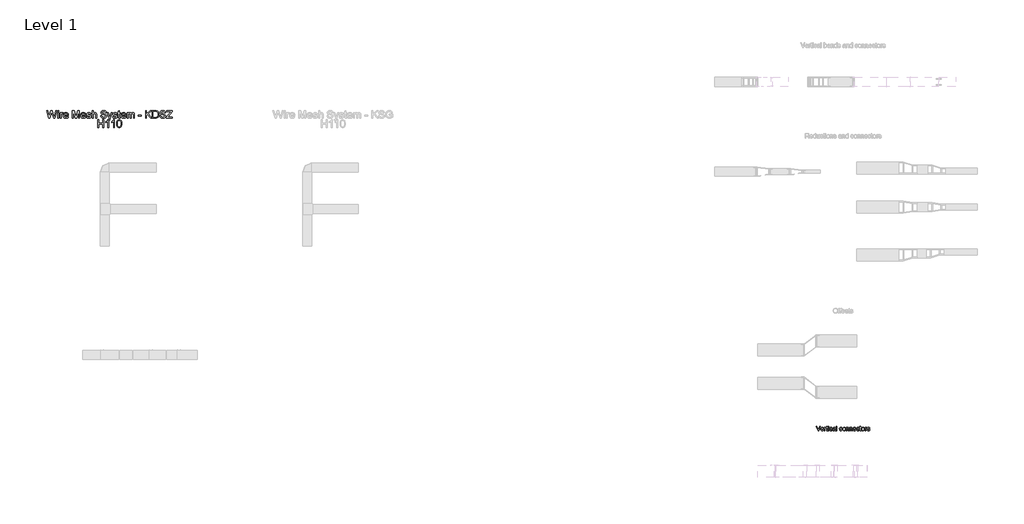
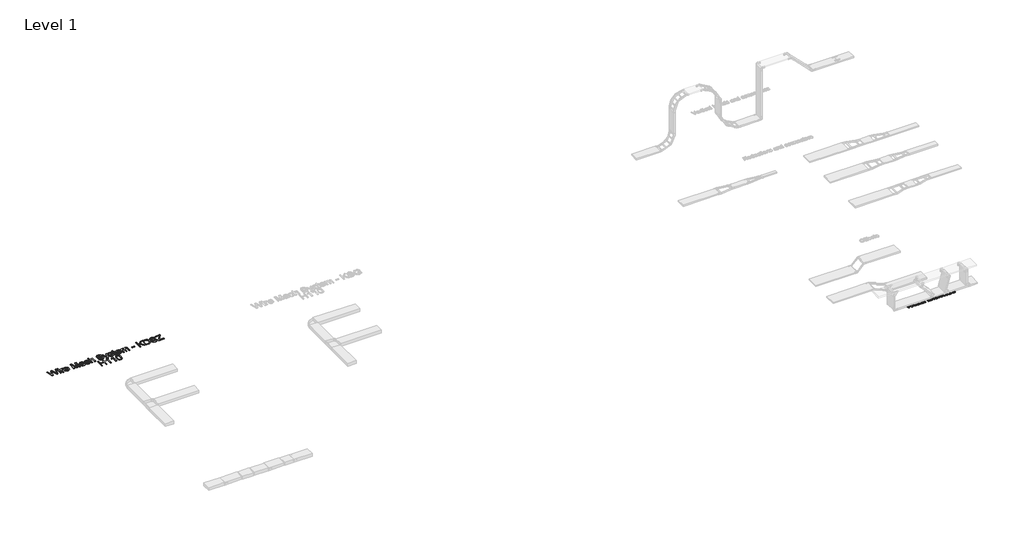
# One storey, part 34 of 106: 2 proxies.
"""IFC4 building model written with IfcOpenShell, lengths in millimetres."""

from ifc_helpers import new_model, si_unit, origin, origin_with_axes, place, context, project, spatial, polyline, outline, extrude, element, save

model = new_model("IFC4")

# Units and contexts
model_context = context("Model", 3, world=origin())
ifc_project = project(units=[si_unit("LENGTHUNIT", "METRE", prefix="MILLI")], contexts=[model_context])

# Site, building, storey
site = spatial("IfcSite", under=ifc_project)
building = spatial("IfcBuilding", under=site)
storey = spatial("IfcBuildingStorey", under=building, Name="Level 1", Elevation=0.0)

# Proxies
placement = place(None, origin())
element("IfcBuildingElementProxy", 1, Name="150mm Arial 2", ObjectType="150mm Arial 2", at=placement, inside=storey, context=model_context, shape_type="SweptSolid", body=[
    extrude(outline(polyline([(29188.5897513, 13047.8476348), (29128.624986, 13198.5321), (29148.7849194, 13198.5321), (29188.920845, 13089.9701232), (29197.0510371, 13065.5059705), (29205.0708646, 13089.9701232), (29245.3171549, 13198.5321), (29265.4770882, 13198.5321), (29208.0507088, 13047.8476348), (29188.5897513, 13047.8476348)])), origin_with_axes(), (0.0, 0.0, 1.0), 15.0),
    extrude(outline(polyline([(29358.1097746, 13080.8098615), (29376.5774508, 13078.4554168), (29369.9233852, 13064.5402803), (29359.3053911, 13054.1384169), (29344.9625918, 13047.6544967), (29327.1341106, 13045.49319), (29305.0335998, 13049.2225937), (29288.0282546, 13060.4108049), (29277.1849327, 13078.3312566), (29273.5704921, 13102.2573819), (29277.2217209, 13126.988249), (29288.1754073, 13145.4835163), (29304.9508263, 13157.0166168), (29326.0672529, 13160.8609837), (29346.5260903, 13157.0258139), (29362.8738465, 13145.5203045), (29373.5930081, 13127.0618254), (29377.166062, 13102.3677465), (29377.0556974, 13097.2909749), (29292.4060503, 13097.2909749), (29295.6664045, 13083.1918975), (29303.2401751, 13072.8268223), (29314.1708688, 13066.4532667), (29327.5019926, 13064.3287482), (29345.9696688, 13068.2650855), (29358.1097746, 13080.8098615)]), holes=[polyline([(29292.4060503, 13116.1265331), (29358.3305038, 13116.1265331), (29355.782921, 13126.0777411), (29350.7889229, 13133.1962577), (29339.8076454, 13139.8181336), (29325.9936765, 13142.0254255), (29313.2971491, 13140.2641905), (29302.7987167, 13134.9804853), (29295.5008576, 13126.7445272), (29292.4060503, 13116.1265331)])]), origin_with_axes(), (0.0, 0.0, 1.0), 15.0),
    extrude(outline(polyline([(29506.6605243, 13063.556196), (29509.0149691, 13047.2958118), (29494.9250886, 13045.49319), (29479.142951, 13048.620187), (29471.2702763, 13056.8239555), (29468.989408, 13078.1978994), (29468.989408, 13139.6709808), (29454.8627394, 13139.6709808), (29454.8627394, 13155.0484482), (29454.8627394, 13158.5065389), (29468.989408, 13158.5065389), (29468.989408, 13185.3987128), (29487.8249661, 13196.4719608), (29487.8249661, 13158.5065389), (29506.6605243, 13158.5065389), (29506.6605243, 13139.6709808), (29487.8249661, 13139.6709808), (29487.8249661, 13078.7497224), (29488.8182475, 13069.0376377), (29492.037215, 13065.597941), (29498.4567558, 13064.3287482), (29506.6605243, 13063.556196)])), origin_with_axes(), (0.0, 0.0, 1.0), 15.0),
    extrude(outline(polyline([(29396.0016201, 13047.8476348), (29396.0016201, 13158.5065389), (29412.4827335, 13158.5065389), (29412.4827335, 13142.1357901), (29424.181381, 13157.2189519), (29435.9536048, 13160.8609837), (29454.8627394, 13155.0484482), (29448.5719572, 13138.1626646), (29435.3282054, 13142.0254255), (29424.6780217, 13138.3098174), (29417.8905988, 13128.0091215), (29414.8371783, 13106.0097782), (29414.8371783, 13047.8476348), (29396.0016201, 13047.8476348)])), origin_with_axes(), (0.0, 0.0, 1.0), 15.0),
    extrude(outline(polyline([(29525.4960824, 13179.6965419), (29525.4960824, 13198.5321), (29544.3316406, 13198.5321), (29544.3316406, 13179.6965419), (29525.4960824, 13179.6965419)])), origin_with_axes(), (0.0, 0.0, 1.0), 15.0),
    extrude(outline(polyline([(29525.4960824, 13047.8476348), (29525.4960824, 13158.5065389), (29544.3316406, 13158.5065389), (29544.3316406, 13047.8476348), (29525.4960824, 13047.8476348)])), origin_with_axes(), (0.0, 0.0, 1.0), 15.0),
    extrude(outline(polyline([(29643.2183209, 13087.8731959), (29662.053879, 13085.5187511), (29656.8023636, 13068.7663247), (29646.933929, 13056.1065856), (29633.3774775, 13048.1465389), (29617.061911, 13045.49319), (29597.0261379, 13049.1950026), (29581.3589634, 13060.3004403), (29571.2468071, 13078.3220596), (29567.8760883, 13102.7724167), (29569.3154266, 13119.5340401), (29573.6334415, 13134.0607803), (29580.8991109, 13145.7916175), (29591.1814127, 13154.1655314), (29603.4824669, 13159.1871206), (29616.8043936, 13160.8609837), (29632.7198885, 13158.5617212), (29645.444007, 13151.6639338), (29654.572079, 13140.5355035), (29659.6994343, 13125.5443122), (29640.8638761, 13123.1898674), (29632.1266787, 13137.2981419), (29616.9515464, 13142.0254255), (29604.7792509, 13139.6985719), (29595.11775, 13132.7180111), (29588.8131723, 13120.7066639), (29586.7116464, 13103.2874515), (29588.7671871, 13085.6337142), (29594.933809, 13073.5809803), (29604.420566, 13066.6418062), (29616.4365116, 13064.3287482), (29626.189983, 13065.772685), (29634.1868179, 13070.1044955), (29640.003952, 13077.4345442), (29643.2183209, 13087.8731959)])), origin_with_axes(), (0.0, 0.0, 1.0), 15.0),
    extrude(outline(polyline([(29749.1683355, 13061.9743034), (29730.9029944, 13049.2087982), (29710.724667, 13045.49319), (29694.9839161, 13047.7280731), (29683.3726407, 13054.4327225), (29676.2127373, 13064.6138567), (29673.8261029, 13077.2781944), (29677.4313464, 13092.1774152), (29686.9043078, 13102.9931459), (29700.0928773, 13109.1735634), (29716.3900497, 13112.0062547), (29749.0579709, 13118.4809779), (29749.1683355, 13122.6748326), (29747.8715515, 13131.0809362), (29743.9811994, 13136.580772), (29735.2807902, 13140.6642622), (29723.1590784, 13142.0254255), (29704.1027911, 13138.4017879), (29695.0161058, 13125.5443122), (29676.1805477, 13127.8987569), (29684.3291339, 13146.2928567), (29700.7366708, 13157.0717991), (29725.5870996, 13160.8609837), (29748.4141774, 13157.5132575), (29761.3084413, 13149.107154), (29767.0841887, 13136.3232546), (29768.0038937, 13119.8421412), (29768.0038937, 13096.4080581), (29768.9603868, 13063.6849547), (29772.7127832, 13047.8476348), (29753.877225, 13047.8476348), (29749.1683355, 13061.9743034)]), holes=[polyline([(29749.1683355, 13099.6454197), (29718.7812827, 13093.8696724), (29702.5760808, 13090.8162518), (29695.236835, 13085.8498449), (29692.661661, 13078.6025696), (29698.2718615, 13068.4122383), (29714.7345808, 13064.3287482), (29733.7908681, 13068.8353026), (29746.0781267, 13079.7430038), (29749.0579709, 13094.3111308), (29749.1683355, 13099.6454197)])]), origin_with_axes(), (0.0, 0.0, 1.0), 15.0),
    extrude(outline(polyline([(29793.9027861, 13047.8476348), (29793.9027861, 13198.5321), (29812.7383443, 13198.5321), (29812.7383443, 13047.8476348), (29793.9027861, 13047.8476348)])), origin_with_axes(), (0.0, 0.0, 1.0), 15.0),
    extrude(outline(polyline([(29970.4861438, 13087.8731959), (29989.321702, 13085.5187511), (29984.0701865, 13068.7663247), (29974.201752, 13056.1065856), (29960.6453004, 13048.1465389), (29944.3297339, 13045.49319), (29924.2939608, 13049.1950026), (29908.6267863, 13060.3004403), (29898.51463, 13078.3220596), (29895.1439112, 13102.7724167), (29896.5832495, 13119.5340401), (29900.9012644, 13134.0607803), (29908.1669338, 13145.7916175), (29918.4492356, 13154.1655314), (29930.7502898, 13159.1871206), (29944.0722165, 13160.8609837), (29959.9877114, 13158.5617212), (29972.7118299, 13151.6639338), (29981.8399019, 13140.5355035), (29986.9672572, 13125.5443122), (29968.131699, 13123.1898674), (29959.3945016, 13137.2981419), (29944.2193693, 13142.0254255), (29932.0470738, 13139.6985719), (29922.3855729, 13132.7180111), (29916.0809952, 13120.7066639), (29913.9794693, 13103.2874515), (29916.03501, 13085.6337142), (29922.2016319, 13073.5809803), (29931.6883889, 13066.6418062), (29943.7043346, 13064.3287482), (29953.457806, 13065.772685), (29961.4546408, 13070.1044955), (29967.2717749, 13077.4345442), (29970.4861438, 13087.8731959)])), origin_with_axes(), (0.0, 0.0, 1.0), 15.0),
    extrude(outline(polyline([(30001.0939258, 13103.1770869), (30005.1682189, 13129.8577286), (30017.3910982, 13148.6105133), (30032.4926541, 13157.7983661), (30050.5740542, 13160.8609837), (30070.361507, 13157.13158), (30086.1666372, 13145.9433688), (30096.5271139, 13128.179267), (30099.9806061, 13104.7221912), (30098.4538958, 13085.693495), (30093.873765, 13071.2081415), (30086.3735708, 13060.3602211), (30076.0866705, 13052.2438246), (30063.8683898, 13047.1808487), (30050.5740542, 13045.49319), (30030.547478, 13049.2087982), (30014.7607419, 13060.3556226), (30004.5106298, 13078.492205), (30001.0939258, 13103.1770869)]), holes=[polyline([(30019.929484, 13103.2138751), (30022.1091848, 13086.1671431), (30028.6482872, 13074.0224387), (30038.4891306, 13066.7521708), (30050.5740542, 13064.3287482), (30062.6037954, 13066.7659664), (30072.4262447, 13074.077621), (30078.9653471, 13086.3832738), (30081.145048, 13103.8024862), (30078.9515516, 13120.3525775), (30072.3710624, 13132.331735), (30062.5348175, 13139.6020029), (30050.5740542, 13142.0254255), (30038.4891306, 13139.6112), (30028.6482872, 13132.3685232), (30022.1091848, 13120.25141), (30019.929484, 13103.2138751)])]), origin_with_axes(), (0.0, 0.0, 1.0), 15.0),
    extrude(outline(polyline([(30121.170609, 13047.8476348), (30121.170609, 13158.5065389), (30140.0061672, 13158.5065389), (30140.0061672, 13143.0554951), (30154.4087473, 13156.4096116), (30174.0720399, 13160.8609837), (30191.8591344, 13157.2741342), (30203.9992402, 13147.8563552), (30209.6462289, 13134.0055981), (30210.6395103, 13115.7954393), (30210.6395103, 13047.8476348), (30191.8039521, 13047.8476348), (30191.8039521, 13113.2570535), (30189.6334483, 13129.9221079), (30181.9631087, 13138.7328817), (30169.0320566, 13142.0254255), (30158.0001953, 13140.1768185), (30148.5962118, 13134.6309974), (30142.1536783, 13123.9164343), (30140.0061672, 13106.5616012), (30140.0061672, 13047.8476348), (30121.170609, 13047.8476348)])), origin_with_axes(), (0.0, 0.0, 1.0), 15.0),
    extrude(outline(polyline([(30236.5384027, 13047.8476348), (30236.5384027, 13158.5065389), (30255.3739609, 13158.5065389), (30255.3739609, 13143.0554951), (30269.776541, 13156.4096116), (30289.4398336, 13160.8609837), (30307.2269281, 13157.2741342), (30319.3670339, 13147.8563552), (30325.0140226, 13134.0055981), (30326.0073039, 13115.7954393), (30326.0073039, 13047.8476348), (30307.1717458, 13047.8476348), (30307.1717458, 13113.2570535), (30305.001242, 13129.9221079), (30297.3309024, 13138.7328817), (30284.3998503, 13142.0254255), (30273.367989, 13140.1768185), (30263.9640055, 13134.6309974), (30257.521472, 13123.9164343), (30255.3739609, 13106.5616012), (30255.3739609, 13047.8476348), (30236.5384027, 13047.8476348)])), origin_with_axes(), (0.0, 0.0, 1.0), 15.0),
    extrude(outline(polyline([(30429.3821446, 13080.8098615), (30447.8498207, 13078.4554168), (30441.1957552, 13064.5402803), (30430.5777611, 13054.1384169), (30416.2349618, 13047.6544967), (30398.4064806, 13045.49319), (30376.3059697, 13049.2225937), (30359.3006245, 13060.4108049), (30348.4573027, 13078.3312566), (30344.8428621, 13102.2573819), (30348.4940909, 13126.988249), (30359.4477773, 13145.4835163), (30376.2231963, 13157.0166168), (30397.3396228, 13160.8609837), (30417.7984603, 13157.0258139), (30434.1462164, 13145.5203045), (30444.8653781, 13127.0618254), (30448.4384319, 13102.3677465), (30448.3280673, 13097.2909749), (30363.6784202, 13097.2909749), (30366.9387744, 13083.1918975), (30374.512545, 13072.8268223), (30385.4432388, 13066.4532667), (30398.7743626, 13064.3287482), (30417.2420387, 13068.2650855), (30429.3821446, 13080.8098615)]), holes=[polyline([(30363.6784202, 13116.1265331), (30429.6028738, 13116.1265331), (30427.055291, 13126.0777411), (30422.0612929, 13133.1962577), (30411.0800153, 13139.8181336), (30397.2660464, 13142.0254255), (30384.569519, 13140.2641905), (30374.0710866, 13134.9804853), (30366.7732275, 13126.7445272), (30363.6784202, 13116.1265331)])]), origin_with_axes(), (0.0, 0.0, 1.0), 15.0),
    extrude(outline(polyline([(30537.9073332, 13087.8731959), (30556.7428913, 13085.5187511), (30551.4913758, 13068.7663247), (30541.6229413, 13056.1065856), (30528.0664898, 13048.1465389), (30511.7509233, 13045.49319), (30491.7151501, 13049.1950026), (30476.0479757, 13060.3004403), (30465.9358193, 13078.3220596), (30462.5651006, 13102.7724167), (30464.0044389, 13119.5340401), (30468.3224538, 13134.0607803), (30475.5881232, 13145.7916175), (30485.8704249, 13154.1655314), (30498.1714792, 13159.1871206), (30511.4934059, 13160.8609837), (30527.4089007, 13158.5617212), (30540.1330192, 13151.6639338), (30549.2610912, 13140.5355035), (30554.3884465, 13125.5443122), (30535.5528884, 13123.1898674), (30526.815691, 13137.2981419), (30511.6405587, 13142.0254255), (30499.4682632, 13139.6985719), (30489.8067623, 13132.7180111), (30483.5021846, 13120.7066639), (30481.4006587, 13103.2874515), (30483.4561994, 13085.6337142), (30489.6228213, 13073.5809803), (30499.1095782, 13066.6418062), (30511.1255239, 13064.3287482), (30520.8789953, 13065.772685), (30528.8758302, 13070.1044955), (30534.6929642, 13077.4345442), (30537.9073332, 13087.8731959)])), origin_with_axes(), (0.0, 0.0, 1.0), 15.0),
    extrude(outline(polyline([(30613.2495658, 13063.556196), (30615.6040105, 13047.2958118), (30601.5141301, 13045.49319), (30585.7319925, 13048.620187), (30577.8593178, 13056.8239555), (30575.5784495, 13078.1978994), (30575.5784495, 13139.6709808), (30561.4517809, 13139.6709808), (30561.4517809, 13158.5065389), (30575.5784495, 13158.5065389), (30575.5784495, 13185.3987128), (30594.4140076, 13196.4719608), (30594.4140076, 13158.5065389), (30613.2495658, 13158.5065389), (30613.2495658, 13139.6709808), (30594.4140076, 13139.6709808), (30594.4140076, 13078.7497224), (30595.407289, 13069.0376377), (30598.6262565, 13065.597941), (30605.0457973, 13064.3287482), (30613.2495658, 13063.556196)])), origin_with_axes(), (0.0, 0.0, 1.0), 15.0),
    extrude(outline(polyline([(30627.3762344, 13103.1770869), (30631.4505275, 13129.8577286), (30643.6734068, 13148.6105133), (30658.7749627, 13157.7983661), (30676.8563627, 13160.8609837), (30696.6438156, 13157.13158), (30712.4489458, 13145.9433688), (30722.8094225, 13128.179267), (30726.2629147, 13104.7221912), (30724.7362044, 13085.693495), (30720.1560736, 13071.2081415), (30712.6558794, 13060.3602211), (30702.3689791, 13052.2438246), (30690.1506983, 13047.1808487), (30676.8563627, 13045.49319), (30656.8297866, 13049.2087982), (30641.0430505, 13060.3556226), (30630.7929384, 13078.492205), (30627.3762344, 13103.1770869)]), holes=[polyline([(30646.2117925, 13103.2138751), (30648.3914934, 13086.1671431), (30654.9305958, 13074.0224387), (30664.7714392, 13066.7521708), (30676.8563627, 13064.3287482), (30688.886104, 13066.7659664), (30698.7085533, 13074.077621), (30705.2476557, 13086.3832738), (30707.4273565, 13103.8024862), (30705.2338601, 13120.3525775), (30698.653371, 13132.331735), (30688.8171261, 13139.6020029), (30676.8563627, 13142.0254255), (30664.7714392, 13139.6112), (30654.9305958, 13132.3685232), (30648.3914934, 13120.25141), (30646.2117925, 13103.2138751)])]), origin_with_axes(), (0.0, 0.0, 1.0), 15.0),
    extrude(outline(polyline([(30747.4529176, 13047.8476348), (30747.4529176, 13158.5065389), (30763.934031, 13158.5065389), (30763.934031, 13142.1357901), (30775.6326784, 13157.2189519), (30787.4049023, 13160.8609837), (30806.3140368, 13155.0484482), (30800.0232547, 13138.1626646), (30786.7795029, 13142.0254255), (30776.1293191, 13138.3098174), (30769.3418963, 13128.0091215), (30766.2884758, 13106.0097782), (30766.2884758, 13047.8476348), (30747.4529176, 13047.8476348)])), origin_with_axes(), (0.0, 0.0, 1.0), 15.0),
    extrude(outline(polyline([(30811.0229264, 13080.8098615), (30829.8584845, 13083.1643063), (30832.8291316, 13075.1076906), (30838.5772878, 13069.1847905), (30858.5532802, 13064.3287482), (30877.7567203, 13068.7801203), (30884.0107142, 13079.227969), (30882.4380187, 13084.028829), (30877.7199321, 13087.6892549), (30858.332551, 13093.060332), (30829.9688491, 13102.275776), (30817.58962, 13113.0363243), (30813.3773712, 13128.2298507), (30816.7618855, 13142.2645488), (30825.9957236, 13152.988309), (30837.9702825, 13158.5617212), (30854.1754844, 13160.8609837), (30877.0945327, 13157.1637696), (30891.6626597, 13147.1573794), (30898.1373828, 13130.2532017), (30879.3018247, 13127.8987569), (30872.2200963, 13138.2914233), (30855.6470124, 13142.0254255), (30837.6207946, 13138.4569702), (30832.2129293, 13130.1428371), (30834.4570095, 13124.6613954), (30841.4835556, 13120.5043288), (30857.7071516, 13116.4944151), (30885.3534835, 13107.628459), (30898.1925651, 13097.5852805), (30902.8462724, 13081.2145317), (30897.3832248, 13063.188314), (30881.6194813, 13050.1101091), (30858.2957628, 13045.49319), (30839.3038548, 13047.7188761), (30825.4439006, 13054.3959343), (30816.1916684, 13065.4507882), (30811.0229264, 13080.8098615)])), origin_with_axes(), (0.0, 0.0, 1.0), 15.0),
])
element("IfcBuildingElementProxy", 2, Name="250mm Arial 3", ObjectType="250mm Arial 3", at=placement, inside=storey, context=model_context, shape_type="SweptSolid", body=[
    extrude(outline(polyline([(3710.2659596, 23403.1379564), (3641.7785948, 23654.2787318), (3674.1522104, 23654.2787318), (3713.8834659, 23489.2223433), (3726.146199, 23438.2706869), (3739.2673235, 23483.3362313), (3789.0540202, 23654.2787318), (3835.7137199, 23654.2787318), (3871.8887828, 23530.3638131), (3887.3858118, 23484.3785637), (3898.8054821, 23438.2706869), (3910.7003333, 23487.7508153), (3950.7994708, 23654.2787318), (3983.1730863, 23654.2787318), (3914.6244079, 23403.1379564), (3881.0858327, 23403.1379564), (3820.8758128, 23596.8891405), (3812.4758406, 23623.9284672), (3803.033536, 23591.3709106), (3748.1578051, 23403.1379564), (3710.2659596, 23403.1379564)])), origin_with_axes(), (0.0, 0.0, 1.0), 15.0),
    extrude(outline(polyline([(4010.6416086, 23622.8861348), (4010.6416086, 23654.2787318), (4042.0342056, 23654.2787318), (4042.0342056, 23622.8861348), (4010.6416086, 23622.8861348)])), origin_with_axes(), (0.0, 0.0, 1.0), 15.0),
    extrude(outline(polyline([(4010.6416086, 23403.1379564), (4010.6416086, 23587.5694633), (4042.0342056, 23587.5694633), (4042.0342056, 23403.1379564), (4010.6416086, 23403.1379564)])), origin_with_axes(), (0.0, 0.0, 1.0), 15.0),
    extrude(outline(polyline([(4089.1231009, 23403.1379564), (4089.1231009, 23587.5694633), (4116.5916233, 23587.5694633), (4116.5916233, 23560.284882), (4126.739035, 23576.1038078), (4136.089369, 23585.423485), (4155.7097421, 23591.4935379), (4171.3447269, 23589.0716481), (4187.2249663, 23581.8059787), (4176.7403295, 23553.6630061), (4154.6674098, 23560.100941), (4145.2940831, 23558.5527709), (4136.9171035, 23553.9082608), (4125.6047321, 23536.7404343), (4120.5156979, 23500.0748621), (4120.5156979, 23403.1379564), (4089.1231009, 23403.1379564)])), origin_with_axes(), (0.0, 0.0, 1.0), 15.0),
    extrude(outline(polyline([(4335.9719197, 23458.075001), (4366.75138, 23454.1509264), (4355.6612707, 23430.9590323), (4337.9646139, 23413.6225933), (4314.0599484, 23402.8160597), (4284.3458131, 23399.2138818), (4264.8672278, 23400.7678), (4247.5116283, 23405.4295547), (4232.2790144, 23413.1991458), (4219.1693862, 23424.0765733), (4208.6272678, 23437.759101), (4201.0971832, 23453.9439928), (4196.5791325, 23472.6312485), (4195.0731156, 23493.8208682), (4196.5944609, 23515.7290074), (4201.1584969, 23535.0389801), (4208.7652236, 23551.7507861), (4219.4146409, 23565.8644256), (4232.4897802, 23577.0771622), (4247.3736725, 23585.0862598), (4264.0663181, 23589.8917184), (4282.5677167, 23591.4935379), (4300.4732232, 23589.8955505), (4316.6657792, 23585.1015883), (4331.1453846, 23577.1116512), (4343.9120394, 23565.9257393), (4354.3334466, 23551.8427566), (4361.7773088, 23535.1616074), (4366.2436262, 23515.8822916), (4367.7323986, 23494.0048092), (4367.5484576, 23485.5435233), (4226.4657125, 23485.5435233), (4231.8996361, 23462.0450609), (4244.5225871, 23444.7699355), (4262.74041, 23434.1473429), (4284.9589497, 23430.6064787), (4301.6669237, 23432.2466193), (4315.73841, 23437.1670409), (4327.1734087, 23445.6743121), (4335.9719197, 23458.075001)]), holes=[polyline([(4226.4657125, 23516.9361202), (4336.3398017, 23516.9361202), (4332.0938303, 23533.5214669), (4323.7705002, 23545.3856612), (4305.4683709, 23556.4221211), (4282.4450894, 23560.100941), (4261.2842105, 23557.1655493), (4243.7868231, 23548.359374), (4231.6237246, 23534.632777), (4226.4657125, 23516.9361202)])]), origin_with_axes(), (0.0, 0.0, 1.0), 15.0),
    extrude(outline(polyline([(4501.1509355, 23403.1379564), (4501.1509355, 23654.2787318), (4555.1682752, 23654.2787318), (4606.5491272, 23477.2661784), (4616.9111367, 23440.2940379), (4628.1315375, 23480.3318617), (4678.6539982, 23654.2787318), (4732.6713378, 23654.2787318), (4732.6713378, 23403.1379564), (4701.2787409, 23403.1379564), (4701.2787409, 23622.8861348), (4638.1869788, 23403.1379564), (4595.6352946, 23403.1379564), (4532.5435325, 23622.8861348), (4532.5435325, 23403.1379564), (4501.1509355, 23403.1379564)])), origin_with_axes(), (0.0, 0.0, 1.0), 15.0),
    extrude(outline(polyline([(4912.8108882, 23458.075001), (4943.5903484, 23454.1509264), (4932.5002391, 23430.9590323), (4914.8035823, 23413.6225933), (4890.8989168, 23402.8160597), (4861.1847815, 23399.2138818), (4841.7061963, 23400.7678), (4824.3505967, 23405.4295547), (4809.1179829, 23413.1991458), (4796.0083547, 23424.0765733), (4785.4662363, 23437.759101), (4777.9361517, 23453.9439928), (4773.4181009, 23472.6312485), (4771.912084, 23493.8208682), (4773.4334293, 23515.7290074), (4777.9974653, 23535.0389801), (4785.604192, 23551.7507861), (4796.2536093, 23565.8644256), (4809.3287486, 23577.0771622), (4824.212641, 23585.0862598), (4840.9052865, 23589.8917184), (4859.4066852, 23591.4935379), (4877.3121917, 23589.8955505), (4893.5047476, 23585.1015883), (4907.984353, 23577.1116512), (4920.7510079, 23565.9257393), (4931.172415, 23551.8427566), (4938.6162773, 23535.1616074), (4943.0825946, 23515.8822916), (4944.5713671, 23494.0048092), (4944.3874261, 23485.5435233), (4803.3046809, 23485.5435233), (4808.7386046, 23462.0450609), (4821.3615555, 23444.7699355), (4839.5793785, 23434.1473429), (4861.7979182, 23430.6064787), (4878.5058921, 23432.2466193), (4892.5773784, 23437.1670409), (4904.0123771, 23445.6743121), (4912.8108882, 23458.075001)]), holes=[polyline([(4803.3046809, 23516.9361202), (4913.1787701, 23516.9361202), (4908.9327988, 23533.5214669), (4900.6094686, 23545.3856612), (4882.3073394, 23556.4221211), (4859.2840579, 23560.100941), (4838.1231789, 23557.1655493), (4820.6257915, 23548.359374), (4808.4626931, 23534.632777), (4803.3046809, 23516.9361202)])]), origin_with_axes(), (0.0, 0.0, 1.0), 15.0),
    extrude(outline(polyline([(4964.1917401, 23458.075001), (4995.5843371, 23461.9990756), (5000.5354156, 23448.5713828), (5010.1156759, 23438.6998826), (5024.3864316, 23432.6298297), (5043.4089964, 23430.6064787), (5062.201635, 23432.4612171), (5075.41473, 23438.0254323), (5083.2322224, 23446.0881793), (5085.8380532, 23455.4385134), (5083.216894, 23463.4399468), (5075.3534164, 23469.5406565), (5043.0411144, 23478.4924517), (4995.7682781, 23493.851525), (4983.804449, 23501.5693827), (4975.1362295, 23511.7857723), (4969.8709184, 23523.8492361), (4968.1158148, 23537.1083163), (4973.756672, 23560.4994798), (4989.1464021, 23578.3724134), (5009.1040004, 23587.6614338), (5036.1126702, 23591.4935379), (5056.5454493, 23589.9530321), (5074.311084, 23585.3315145), (5088.5971682, 23578.0811735), (5098.5912957, 23568.6541974), (5105.2131716, 23556.3531432), (5109.3825009, 23540.4805679), (5077.989904, 23536.5564933), (5074.0275083, 23546.4356577), (5066.1870233, 23553.8776039), (5054.3918068, 23558.5451067), (5038.5652168, 23560.100941), (5020.5389991, 23558.6140846), (5008.5215206, 23554.1535154), (5001.7616889, 23547.7155805), (4999.5084117, 23540.2966269), (5003.2485453, 23531.1608907), (5014.9594555, 23524.2324465), (5041.9987821, 23517.5492569), (5088.076002, 23502.7726634), (5100.2467647, 23495.7062634), (5109.4744714, 23486.0340326), (5115.2916055, 23473.7253142), (5117.2306501, 23458.7494513), (5114.9543803, 23443.2677507), (5108.1255708, 23428.7057551), (5097.0048046, 23416.2054314), (5081.8526649, 23406.9087468), (5063.5505357, 23401.137598), (5042.9798008, 23399.2138818), (5011.3266208, 23402.9233586), (4988.2266972, 23414.0517889), (4972.8063102, 23432.4765455), (4964.1917401, 23458.075001)])), origin_with_axes(), (0.0, 0.0, 1.0), 15.0),
    extrude(outline(polyline([(5152.5473217, 23403.1379564), (5152.5473217, 23654.2787318), (5183.9399186, 23654.2787318), (5183.9399186, 23561.940351), (5195.4707199, 23574.8698703), (5208.4193997, 23584.1052412), (5222.785958, 23589.6464637), (5238.5703949, 23591.4935379), (5257.531646, 23589.4778512), (5273.8257528, 23583.4307909), (5286.6556373, 23573.8275379), (5295.2242221, 23561.1432733), (5300.0526733, 23543.7148638), (5301.6621571, 23519.8791762), (5301.6621571, 23403.1379564), (5270.2695601, 23403.1379564), (5270.2695601, 23516.6295519), (5267.7710282, 23536.2805818), (5260.2754326, 23549.7389315), (5248.1966404, 23557.5104386), (5231.948519, 23560.100941), (5218.6817745, 23558.3535015), (5206.2274361, 23553.1111831), (5195.9114119, 23544.8798235), (5189.0596097, 23534.1652603), (5185.2198414, 23519.9251614), (5183.9399186, 23501.1171944), (5183.9399186, 23403.1379564), (5152.5473217, 23403.1379564)])), origin_with_axes(), (0.0, 0.0, 1.0), 15.0),
    extrude(outline(polyline([(5435.080694, 23489.4675979), (5466.4732909, 23489.4675979), (5470.0754688, 23472.0468526), (5476.5900458, 23458.0443442), (5486.7527859, 23446.9312422), (5501.2994531, 23438.1787164), (5519.0804162, 23432.4995381), (5538.9460439, 23430.6064787), (5556.4357671, 23432.0396856), (5571.7488552, 23436.3393065), (5584.1572083, 23443.1451234), (5592.9327267, 23452.0969186), (5598.1520525, 23462.3746218), (5599.8918278, 23473.1581628), (5594.6801662, 23492.7478791), (5586.7400465, 23500.4963936), (5573.3430105, 23507.0033064), (5527.6336726, 23518.990128), (5478.4294557, 23534.4718287), (5462.8021351, 23545.0331076), (5451.7273543, 23557.8323354), (5445.128471, 23572.5936004), (5442.9288432, 23589.0409913), (5445.6496371, 23607.4274268), (5453.8120189, 23624.5722607), (5467.2013907, 23639.1035995), (5485.6031546, 23649.64955), (5507.6914028, 23656.0644923), (5532.140227, 23658.2028064), (5558.6277307, 23655.9648576), (5581.8042964, 23649.2510112), (5600.8421896, 23638.1992229), (5614.9136759, 23622.9474485), (5623.8194859, 23604.4460498), (5627.3603501, 23583.6453887), (5595.9677532, 23583.6453887), (5590.2042686, 23602.3767136), (5578.1867901, 23615.8963769), (5559.4094799, 23624.0817513), (5533.3665003, 23626.8102095), (5506.7103841, 23624.1124082), (5488.4235833, 23616.0190043), (5477.8469759, 23604.1088247), (5474.3214401, 23589.9606963), (5476.819972, 23577.8972325), (5484.3155677, 23568.1943449), (5502.0352171, 23559.5184612), (5535.5737923, 23550.6586365), (5591.1239736, 23534.9010243), (5609.0198998, 23523.5120109), (5621.504895, 23509.455853), (5628.8395423, 23492.8858348), (5631.2844247, 23473.9552405), (5628.4716603, 23454.6031147), (5620.033367, 23436.4006201), (5606.3144343, 23420.7349785), (5587.6597515, 23408.9934115), (5565.226614, 23401.6587642), (5540.1723173, 23399.2138818), (5509.4158496, 23401.8503694), (5484.1009698, 23409.7598323), (5463.936438, 23422.9729273), (5448.6310141, 23441.5203112), (5438.8054992, 23464.1143971), (5435.080694, 23489.4675979)])), origin_with_axes(), (0.0, 0.0, 1.0), 15.0),
    extrude(outline(polyline([(5674.4492455, 23332.5046133), (5670.5251709, 23362.7322506), (5686.466724, 23359.9731356), (5701.3659448, 23363.4373577), (5710.501681, 23373.0942601), (5719.0855942, 23396.2095122), (5721.5381409, 23403.8124067), (5654.8288724, 23587.5694633), (5687.938252, 23587.5694633), (5723.3162372, 23485.1756413), (5735.640284, 23444.2181125), (5747.9643309, 23480.3931754), (5784.3233347, 23587.5694633), (5817.1874596, 23587.5694633), (5752.9920515, 23398.7233725), (5736.3147344, 23357.7658437), (5727.7768064, 23344.6907044), (5718.1045756, 23335.6316103), (5706.8688463, 23330.3433066), (5693.6404229, 23328.5805387), (5674.4492455, 23332.5046133)])), origin_with_axes(), (0.0, 0.0, 1.0), 15.0),
    extrude(outline(polyline([(5831.4122301, 23458.075001), (5862.804827, 23461.9990756), (5867.7559055, 23448.5713828), (5877.3361658, 23438.6998826), (5891.6069216, 23432.6298297), (5910.6294864, 23430.6064787), (5929.422125, 23432.4612171), (5942.63522, 23438.0254323), (5950.4527124, 23446.0881793), (5953.0585432, 23455.4385134), (5950.437384, 23463.4399468), (5942.5739063, 23469.5406565), (5910.2616044, 23478.4924517), (5862.988768, 23493.851525), (5851.024939, 23501.5693827), (5842.3567195, 23511.7857723), (5837.0914084, 23523.8492361), (5835.3363047, 23537.1083163), (5840.977162, 23560.4994798), (5856.3668921, 23578.3724134), (5876.3244904, 23587.6614338), (5903.3331602, 23591.4935379), (5923.7659393, 23589.9530321), (5941.531574, 23585.3315145), (5955.8176581, 23578.0811735), (5965.8117857, 23568.6541974), (5972.4336616, 23556.3531432), (5976.6029909, 23540.4805679), (5945.2103939, 23536.5564933), (5941.2479983, 23546.4356577), (5933.4075133, 23553.8776039), (5921.6122968, 23558.5451067), (5905.7857068, 23560.100941), (5887.759489, 23558.6140846), (5875.7420105, 23554.1535154), (5868.9821789, 23547.7155805), (5866.7289016, 23540.2966269), (5870.4690353, 23531.1608907), (5882.1799454, 23524.2324465), (5909.2192721, 23517.5492569), (5955.296492, 23502.7726634), (5967.4672547, 23495.7062634), (5976.6949614, 23486.0340326), (5982.5120954, 23473.7253142), (5984.4511401, 23458.7494513), (5982.1748703, 23443.2677507), (5975.3460607, 23428.7057551), (5964.2252946, 23416.2054314), (5949.0731549, 23406.9087468), (5930.7710256, 23401.137598), (5910.2002907, 23399.2138818), (5878.5471107, 23402.9233586), (5855.4471871, 23414.0517889), (5840.0268002, 23432.4765455), (5831.4122301, 23458.075001)])), origin_with_axes(), (0.0, 0.0, 1.0), 15.0),
    extrude(outline(polyline([(6086.4770801, 23429.3188917), (6090.4011547, 23402.2182514), (6066.9180207, 23399.2138818), (6051.8501873, 23400.5167972), (6040.614458, 23404.4255434), (6027.4933335, 23418.0984909), (6023.6918863, 23453.7217307), (6023.6918863, 23556.1768664), (6000.1474386, 23556.1768664), (6000.1474386, 23587.5694633), (6023.6918863, 23587.5694633), (6023.6918863, 23632.3897531), (6055.0844832, 23650.8451665), (6055.0844832, 23587.5694633), (6086.4770801, 23587.5694633), (6086.4770801, 23556.1768664), (6055.0844832, 23556.1768664), (6055.0844832, 23454.6414357), (6056.7399522, 23438.4546279), (6062.1048979, 23432.7218002), (6072.8041326, 23430.6064787), (6086.4770801, 23429.3188917)])), origin_with_axes(), (0.0, 0.0, 1.0), 15.0),
    extrude(outline(polyline([(6246.9962573, 23458.075001), (6277.7757176, 23454.1509264), (6266.6856083, 23430.9590323), (6248.9889515, 23413.6225933), (6225.084286, 23402.8160597), (6195.3701507, 23399.2138818), (6175.8915654, 23400.7678), (6158.5359659, 23405.4295547), (6143.303352, 23413.1991458), (6130.1937239, 23424.0765733), (6119.6516054, 23437.759101), (6112.1215208, 23453.9439928), (6107.6034701, 23472.6312485), (6106.0974532, 23493.8208682), (6107.6187985, 23515.7290074), (6112.1828345, 23535.0389801), (6119.7895612, 23551.7507861), (6130.4389785, 23565.8644256), (6143.5141178, 23577.0771622), (6158.3980102, 23585.0862598), (6175.0906557, 23589.8917184), (6193.5920544, 23591.4935379), (6211.4975608, 23589.8955505), (6227.6901168, 23585.1015883), (6242.1697222, 23577.1116512), (6254.9363771, 23565.9257393), (6265.3577842, 23551.8427566), (6272.8016464, 23535.1616074), (6277.2679638, 23515.8822916), (6278.7567362, 23494.0048092), (6278.5727952, 23485.5435233), (6137.4900501, 23485.5435233), (6142.9239737, 23462.0450609), (6155.5469247, 23444.7699355), (6173.7647477, 23434.1473429), (6195.9832873, 23430.6064787), (6212.6912613, 23432.2466193), (6226.7627476, 23437.1670409), (6238.1977463, 23445.6743121), (6246.9962573, 23458.075001)]), holes=[polyline([(6137.4900501, 23516.9361202), (6247.3641393, 23516.9361202), (6243.118168, 23533.5214669), (6234.7948378, 23545.3856612), (6216.4927086, 23556.4221211), (6193.469427, 23560.100941), (6172.3085481, 23557.1655493), (6154.8111607, 23548.359374), (6142.6480622, 23534.632777), (6137.4900501, 23516.9361202)])]), origin_with_axes(), (0.0, 0.0, 1.0), 15.0),
    extrude(outline(polyline([(6310.1493332, 23403.1379564), (6310.1493332, 23587.5694633), (6341.5419301, 23587.5694633), (6341.5419301, 23557.2191987), (6350.9842346, 23571.1603935), (6363.1243405, 23582.0818902), (6377.5483804, 23589.140626), (6393.8424871, 23591.4935379), (6411.3015534, 23589.0946407), (6425.2963977, 23581.8979492), (6435.7503777, 23570.3786442), (6442.5868514, 23555.0119067), (6454.0295143, 23570.9726204), (6467.0816609, 23582.3731301), (6481.7432913, 23589.213436), (6498.0144054, 23591.4935379), (6521.6125025, 23587.6997549), (6539.0639047, 23576.3184056), (6549.8474456, 23557.0429219), (6553.4419593, 23529.5667354), (6553.4419593, 23403.1379564), (6522.0493624, 23403.1379564), (6522.0493624, 23516.0777289), (6519.1369633, 23542.2893211), (6508.5910127, 23555.1958477), (6490.6567655, 23560.100941), (6473.6498874, 23556.9586156), (6459.7853347, 23547.5316395), (6450.5652922, 23531.1762191), (6447.4919447, 23507.248561), (6447.4919447, 23403.1379564), (6416.0993478, 23403.1379564), (6416.0993478, 23519.5726079), (6414.2829304, 23537.3229141), (6408.8336784, 23549.9841861), (6399.2457539, 23557.5717523), (6385.0133192, 23560.100941), (6372.9191986, 23558.4148152), (6361.7754398, 23553.3564378), (6352.5783899, 23545.048436), (6346.324396, 23533.6134374), (6341.5419301, 23496.1507875), (6341.5419301, 23403.1379564), (6310.1493332, 23403.1379564)])), origin_with_axes(), (0.0, 0.0, 1.0), 15.0),
    extrude(outline(polyline([(6682.9364216, 23477.6953741), (6682.9364216, 23509.087971), (6781.038287, 23509.087971), (6781.038287, 23477.6953741), (6682.9364216, 23477.6953741)])), origin_with_axes(), (0.0, 0.0, 1.0), 15.0),
    extrude(outline(polyline([(6918.3808985, 23403.1379564), (6918.3808985, 23654.2787318), (6949.7734954, 23654.2787318), (6949.7734954, 23531.3448317), (7078.5321938, 23654.2787318), (7122.4327785, 23654.2787318), (7014.3367856, 23551.0265185), (7126.3568531, 23403.1379564), (7087.9744983, 23403.1379564), (6992.0799249, 23529.8119901), (6949.7734954, 23489.4675979), (6949.7734954, 23403.1379564), (6918.3808985, 23403.1379564)])), origin_with_axes(), (0.0, 0.0, 1.0), 15.0),
    extrude(outline(polyline([(7149.9013008, 23403.1379564), (7149.9013008, 23654.2787318), (7236.5375107, 23654.2787318), (7281.3578004, 23650.6612255), (7301.3767123, 23643.686796), (7318.2686273, 23632.6963214), (7335.6357231, 23613.5664576), (7348.0057552, 23589.7767553), (7355.4093804, 23561.7870668), (7357.8772554, 23530.0572447), (7356.206458, 23503.1022244), (7351.1940658, 23479.3814999), (7343.5605144, 23459.1863112), (7334.0262394, 23442.8078982), (7311.0949284, 23420.0298713), (7281.0818889, 23407.429913), (7240.70684, 23403.1379564), (7149.9013008, 23403.1379564)]), holes=[polyline([(7181.2938977, 23434.5305533), (7236.844079, 23434.5305533), (7277.2497848, 23439.0677646), (7300.5489778, 23451.8823208), (7311.4551462, 23465.470962), (7319.6481848, 23483.0603198), (7324.7755401, 23504.7270365), (7326.4846585, 23530.5477541), (7323.1353995, 23564.7607796), (7313.0876225, 23590.0220099), (7298.2420512, 23607.3737774), (7280.4994091, 23617.8584142), (7262.4425345, 23621.6292047), (7235.9856877, 23622.8861348), (7181.2938977, 23622.8861348), (7181.2938977, 23434.5305533)])]), origin_with_axes(), (0.0, 0.0, 1.0), 15.0),
    extrude(outline(polyline([(7389.2698523, 23489.4675979), (7420.6624493, 23489.4675979), (7424.2646271, 23472.0468526), (7430.7792041, 23458.0443442), (7440.9419443, 23446.9312422), (7455.4886115, 23438.1787164), (7473.2695746, 23432.4995381), (7493.1352023, 23430.6064787), (7510.6249255, 23432.0396856), (7525.9380136, 23436.3393065), (7538.3463667, 23443.1451234), (7547.1218851, 23452.0969186), (7552.3412109, 23462.3746218), (7554.0809862, 23473.1581628), (7548.8693246, 23492.7478791), (7540.9292049, 23500.4963936), (7527.5321689, 23507.0033064), (7481.822831, 23518.990128), (7432.6186141, 23534.4718287), (7416.9912935, 23545.0331076), (7405.9165126, 23557.8323354), (7399.3176293, 23572.5936004), (7397.1180016, 23589.0409913), (7399.8387955, 23607.4274268), (7408.0011773, 23624.5722607), (7421.3905491, 23639.1035995), (7439.792313, 23649.64955), (7461.8805611, 23656.0644923), (7486.3293854, 23658.2028064), (7512.8168891, 23655.9648576), (7535.9934548, 23649.2510112), (7555.031348, 23638.1992229), (7569.1028343, 23622.9474485), (7578.0086443, 23604.4460498), (7581.5495085, 23583.6453887), (7550.1569116, 23583.6453887), (7544.393427, 23602.3767136), (7532.3759485, 23615.8963769), (7513.5986383, 23624.0817513), (7487.5556587, 23626.8102095), (7460.8995425, 23624.1124082), (7442.6127416, 23616.0190043), (7432.0361343, 23604.1088247), (7428.5105985, 23589.9606963), (7431.0091304, 23577.8972325), (7438.504726, 23568.1943449), (7456.2243755, 23559.5184612), (7489.7629507, 23550.6586365), (7545.313132, 23534.9010243), (7563.2090582, 23523.5120109), (7575.6940534, 23509.455853), (7583.0287007, 23492.8858348), (7585.4735831, 23473.9552405), (7582.6608187, 23454.6031147), (7574.2225254, 23436.4006201), (7560.5035927, 23420.7349785), (7541.8489098, 23408.9934115), (7519.4157724, 23401.6587642), (7494.3614756, 23399.2138818), (7463.605008, 23401.8503694), (7438.2901282, 23409.7598323), (7418.1255963, 23422.9729273), (7402.8201725, 23441.5203112), (7392.9946576, 23464.1143971), (7389.2698523, 23489.4675979)])), origin_with_axes(), (0.0, 0.0, 1.0), 15.0),
    extrude(outline(polyline([(7612.9421054, 23403.1379564), (7612.9421054, 23435.695513), (7741.3942354, 23592.9650659), (7765.7970744, 23622.8861348), (7628.6384039, 23622.8861348), (7628.6384039, 23654.2787318), (7805.2217616, 23654.2787318), (7805.2217616, 23622.8861348), (7664.6295257, 23450.7786748), (7651.3857739, 23434.5305533), (7809.1458362, 23434.5305533), (7809.1458362, 23403.1379564), (7612.9421054, 23403.1379564)])), origin_with_axes(), (0.0, 0.0, 1.0), 15.0),
    extrude(outline(polyline([(5340.9029032, 23098.2009118), (5340.9029032, 23349.3416872), (5372.2955001, 23349.3416872), (5372.2955001, 23247.3157472), (5505.714037, 23247.3157472), (5505.714037, 23349.3416872), (5537.106634, 23349.3416872), (5537.106634, 23098.2009118), (5505.714037, 23098.2009118), (5505.714037, 23215.9231502), (5372.2955001, 23215.9231502), (5372.2955001, 23098.2009118), (5340.9029032, 23098.2009118)])), origin_with_axes(), (0.0, 0.0, 1.0), 15.0),
    extrude(outline(polyline([(5697.9936932, 23098.2009118), (5666.6010963, 23098.2009118), (5666.6010963, 23293.9141332), (5636.8639683, 23272.7302617), (5603.8159024, 23256.880679), (5603.8159024, 23286.5564933), (5628.4716603, 23299.9688577), (5649.8318087, 23315.9257393), (5666.6700741, 23332.8942963), (5677.7601835, 23349.3416872), (5697.9936932, 23349.3416872), (5697.9936932, 23098.2009118)])), origin_with_axes(), (0.0, 0.0, 1.0), 15.0),
    extrude(outline(polyline([(5890.2733493, 23098.2009118), (5858.8807524, 23098.2009118), (5858.8807524, 23293.9141332), (5829.1436245, 23272.7302617), (5796.0955586, 23256.880679), (5796.0955586, 23286.5564933), (5820.7513165, 23299.9688577), (5842.1114648, 23315.9257393), (5858.9497303, 23332.8942963), (5870.0398396, 23349.3416872), (5890.2733493, 23349.3416872), (5890.2733493, 23098.2009118)])), origin_with_axes(), (0.0, 0.0, 1.0), 15.0),
    extrude(outline(polyline([(5964.830767, 23221.7479485), (5967.1376937, 23261.9467207), (5974.0584737, 23294.0061037), (5985.5241293, 23318.4166069), (6001.4656824, 23335.6687397), (6021.9980962, 23345.9234503), (6047.2363339, 23349.3416872), (6066.5807955, 23347.3183362), (6083.9019061, 23341.2482833), (6098.3872597, 23331.3691189), (6109.2244501, 23317.9184334), (6123.9397299, 23280.7623519), (6128.2163581, 23255.0489333), (6129.6419009, 23221.7479485), (6127.3579668, 23181.7791026), (6120.5061647, 23149.7963616), (6109.109487, 23125.3628658), (6093.1909265, 23108.0417552), (6072.6125274, 23097.7180667), (6047.2363339, 23094.2768372), (6029.9458802, 23095.7713578), (6014.6174637, 23100.2549196), (6001.2510845, 23107.7275226), (5989.8467427, 23118.1891669), (5978.9022533, 23137.1006007), (5971.0847609, 23160.6642089), (5966.3942655, 23188.8799915), (5964.830767, 23221.7479485)]), holes=[polyline([(5996.2233639, 23221.8092622), (5999.9021839, 23172.4287685), (6004.5007088, 23155.5387696), (6010.9386438, 23143.848936), (6027.3707062, 23130.2143096), (6047.2363339, 23125.6694341), (6067.1019617, 23130.229638), (6083.5340241, 23143.9102497), (6089.9719591, 23155.6192438), (6094.570484, 23172.5054106), (6098.2493039, 23221.8092622), (6094.6931113, 23270.0784456), (6090.2478705, 23286.912879), (6084.0245335, 23298.8805402), (6067.6231278, 23313.1819527), (6046.8684519, 23317.9490902), (6027.217422, 23313.7491041), (6011.4291531, 23301.1491458), (6004.7766203, 23288.1199918), (6000.0248112, 23270.5536265), (5996.2233639, 23221.8092622)])]), origin_with_axes(), (0.0, 0.0, 1.0), 15.0),
])

save(model, "model.ifc")
